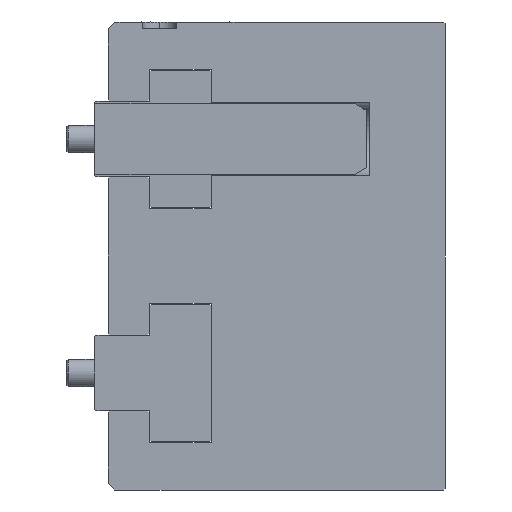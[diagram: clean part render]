
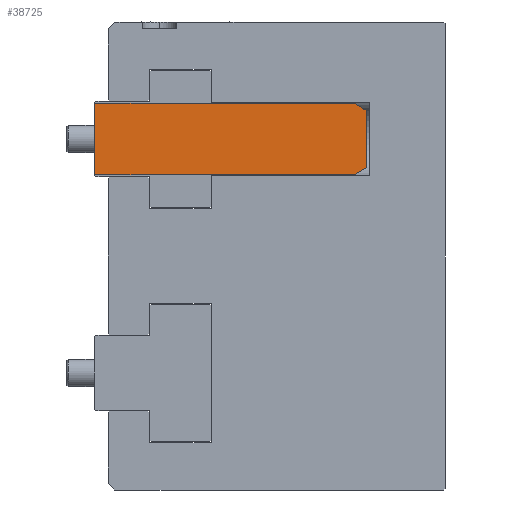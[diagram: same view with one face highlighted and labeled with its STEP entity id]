
A CAD part, left-side view. The second image highlights one B-rep face of the part: STEP entity #38725.
In plain terms, the highlighted planar face has unit normal (-1, 0, 0).
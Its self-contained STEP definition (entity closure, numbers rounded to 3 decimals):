
#323 = VERTEX_POINT ( 'NONE', #24954 ) ;
#632 = LINE ( 'NONE', #23414, #28248 ) ;
#712 = VECTOR ( 'NONE', #44653, 1000. ) ;
#896 = DIRECTION ( 'NONE',  ( 0., 0.707, -0.707 ) ) ;
#3268 = CARTESIAN_POINT ( 'NONE',  ( -210., -45., -8.329 ) ) ;
#3356 = EDGE_CURVE ( 'NONE', #30522, #31398, #43621, .T. ) ;
#3448 = DIRECTION ( 'NONE',  ( 0., 0., -1. ) ) ;
#3557 = CARTESIAN_POINT ( 'NONE',  ( -210., -45., -10.35 ) ) ;
#4879 = CARTESIAN_POINT ( 'NONE',  ( -210., 33.499, -10.35 ) ) ;
#4941 = EDGE_LOOP ( 'NONE', ( #40517, #12437, #20307, #38866, #28839, #46278, #8573, #9162 ) ) ;
#5960 = EDGE_CURVE ( 'NONE', #29747, #31398, #27203, .T. ) ;
#6105 = VECTOR ( 'NONE', #896, 1000. ) ;
#7500 = DIRECTION ( 'NONE',  ( 0., 0.707, 0.707 ) ) ;
#8445 = VECTOR ( 'NONE', #44084, 1000. ) ;
#8573 = ORIENTED_EDGE ( 'NONE', *, *, #13369, .T. ) ;
#9162 = ORIENTED_EDGE ( 'NONE', *, *, #41570, .T. ) ;
#9634 = EDGE_CURVE ( 'NONE', #26124, #43259, #632, .T. ) ;
#9804 = CARTESIAN_POINT ( 'NONE',  ( -210., -45., 8.329 ) ) ;
#10718 = VERTEX_POINT ( 'NONE', #3268 ) ;
#11145 = PLANE ( 'NONE',  #36935 ) ;
#12437 = ORIENTED_EDGE ( 'NONE', *, *, #9634, .F. ) ;
#12836 = DIRECTION ( 'NONE',  ( 0., -1., 0. ) ) ;
#13369 = EDGE_CURVE ( 'NONE', #30522, #22872, #35950, .T. ) ;
#14755 = DIRECTION ( 'NONE',  ( -1., 0., 0. ) ) ;
#16881 = VECTOR ( 'NONE', #3448, 1000. ) ;
#17558 = LINE ( 'NONE', #29096, #19808 ) ;
#18565 = VECTOR ( 'NONE', #36669, 1000. ) ;
#19143 = CARTESIAN_POINT ( 'NONE',  ( -210., 33.499, 10.35 ) ) ;
#19808 = VECTOR ( 'NONE', #7500, 1000. ) ;
#20307 = ORIENTED_EDGE ( 'NONE', *, *, #28796, .T. ) ;
#21394 = CARTESIAN_POINT ( 'NONE',  ( -210., 33.999, 10.35 ) ) ;
#22521 = CARTESIAN_POINT ( 'NONE',  ( -210., -45., -10.35 ) ) ;
#22872 = VERTEX_POINT ( 'NONE', #31553 ) ;
#23093 = CARTESIAN_POINT ( 'NONE',  ( -210., -45., 8.329 ) ) ;
#23414 = CARTESIAN_POINT ( 'NONE',  ( -210., -45., -10.35 ) ) ;
#24489 = VECTOR ( 'NONE', #12836, 1000. ) ;
#24954 = CARTESIAN_POINT ( 'NONE',  ( -210., 33.999, -9.85 ) ) ;
#26124 = VERTEX_POINT ( 'NONE', #41493 ) ;
#26470 = LINE ( 'NONE', #21394, #16881 ) ;
#27203 = LINE ( 'NONE', #23093, #712 ) ;
#28131 = LINE ( 'NONE', #33102, #18565 ) ;
#28248 = VECTOR ( 'NONE', #44968, 1000. ) ;
#28746 = LINE ( 'NONE', #22521, #8445 ) ;
#28796 = EDGE_CURVE ( 'NONE', #26124, #10718, #28131, .T. ) ;
#28839 = ORIENTED_EDGE ( 'NONE', *, *, #5960, .T. ) ;
#28850 = CARTESIAN_POINT ( 'NONE',  ( -210., -41.5, 10.35 ) ) ;
#29096 = CARTESIAN_POINT ( 'NONE',  ( -210., 33.999, -9.85 ) ) ;
#29747 = VERTEX_POINT ( 'NONE', #9804 ) ;
#30522 = VERTEX_POINT ( 'NONE', #19143 ) ;
#31398 = VERTEX_POINT ( 'NONE', #28850 ) ;
#31553 = CARTESIAN_POINT ( 'NONE',  ( -210., 33.999, 9.85 ) ) ;
#33102 = CARTESIAN_POINT ( 'NONE',  ( -210., -41.5, -10.35 ) ) ;
#35950 = LINE ( 'NONE', #41186, #6105 ) ;
#36669 = DIRECTION ( 'NONE',  ( 0., -0.866, 0.5 ) ) ;
#36935 = AXIS2_PLACEMENT_3D ( 'NONE', #3557, #14755, #39879 ) ;
#38094 = CARTESIAN_POINT ( 'NONE',  ( -210., -45., 10.35 ) ) ;
#38709 = EDGE_CURVE ( 'NONE', #43259, #323, #17558, .T. ) ;
#38725 = ADVANCED_FACE ( 'NONE', ( #45149 ), #11145, .T. ) ;
#38866 = ORIENTED_EDGE ( 'NONE', *, *, #45177, .T. ) ;
#39879 = DIRECTION ( 'NONE',  ( 0., 0., 1. ) ) ;
#40517 = ORIENTED_EDGE ( 'NONE', *, *, #38709, .F. ) ;
#41186 = CARTESIAN_POINT ( 'NONE',  ( -210., 33.499, 10.35 ) ) ;
#41493 = CARTESIAN_POINT ( 'NONE',  ( -210., -41.5, -10.35 ) ) ;
#41570 = EDGE_CURVE ( 'NONE', #22872, #323, #26470, .T. ) ;
#43259 = VERTEX_POINT ( 'NONE', #4879 ) ;
#43621 = LINE ( 'NONE', #38094, #24489 ) ;
#44084 = DIRECTION ( 'NONE',  ( 0., 0., 1. ) ) ;
#44653 = DIRECTION ( 'NONE',  ( 0., 0.866, 0.5 ) ) ;
#44968 = DIRECTION ( 'NONE',  ( 0., 1., 0. ) ) ;
#45149 = FACE_OUTER_BOUND ( 'NONE', #4941, .T. ) ;
#45177 = EDGE_CURVE ( 'NONE', #10718, #29747, #28746, .T. ) ;
#46278 = ORIENTED_EDGE ( 'NONE', *, *, #3356, .F. ) ;
